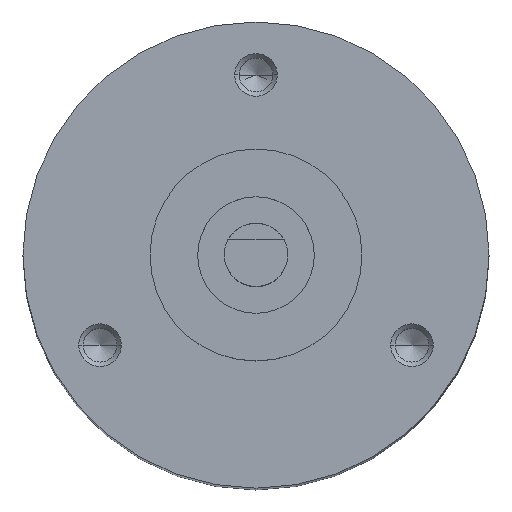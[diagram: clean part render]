
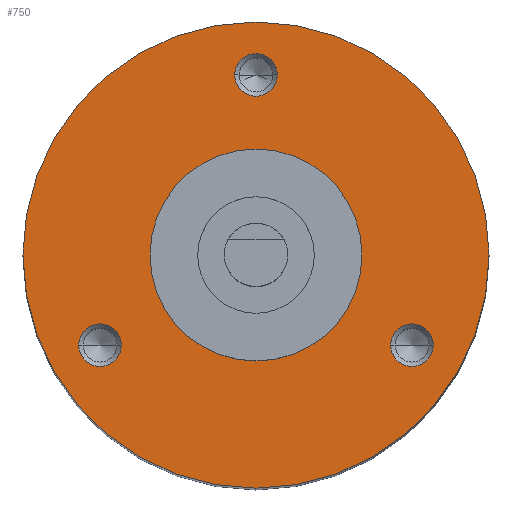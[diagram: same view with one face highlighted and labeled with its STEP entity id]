
A CAD part, top view. The second image highlights one B-rep face of the part: STEP entity #750.
In plain terms, the highlighted planar face has unit normal (0, 0, 1).
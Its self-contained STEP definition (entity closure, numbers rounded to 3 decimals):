
#184 = VERTEX_POINT ( 'NONE', #1499 ) ;
#186 = EDGE_CURVE ( 'NONE', #184, #187, #1498, .T. ) ;
#187 = VERTEX_POINT ( 'NONE', #1444 ) ;
#243 = VERTEX_POINT ( 'NONE', #1584 ) ;
#245 = EDGE_CURVE ( 'NONE', #437, #243, #1597, .T. ) ;
#246 = EDGE_CURVE ( 'NONE', #442, #247, #1588, .T. ) ;
#247 = VERTEX_POINT ( 'NONE', #1632 ) ;
#284 = VERTEX_POINT ( 'NONE', #1793 ) ;
#286 = EDGE_CURVE ( 'NONE', #284, #287, #1740, .T. ) ;
#287 = VERTEX_POINT ( 'NONE', #1730 ) ;
#309 = VERTEX_POINT ( 'NONE', #1846 ) ;
#393 = EDGE_CURVE ( 'NONE', #309, #394, #3620, .T. ) ;
#394 = VERTEX_POINT ( 'NONE', #3615 ) ;
#437 = VERTEX_POINT ( 'NONE', #2236 ) ;
#442 = VERTEX_POINT ( 'NONE', #2189 ) ;
#520 = ORIENTED_EDGE ( 'NONE', *, *, #246, .F. ) ;
#536 = ORIENTED_EDGE ( 'NONE', *, *, #545, .T. ) ;
#540 = EDGE_CURVE ( 'NONE', #247, #442, #2505, .T. ) ;
#545 = EDGE_CURVE ( 'NONE', #243, #437, #2705, .T. ) ;
#546 = ORIENTED_EDGE ( 'NONE', *, *, #540, .F. ) ;
#547 = EDGE_LOOP ( 'NONE', ( #546, #520 ) ) ;
#671 = EDGE_LOOP ( 'NONE', ( #672, #674 ) ) ;
#672 = ORIENTED_EDGE ( 'NONE', *, *, #673, .F. ) ;
#673 = EDGE_CURVE ( 'NONE', #287, #284, #2873, .T. ) ;
#674 = ORIENTED_EDGE ( 'NONE', *, *, #286, .F. ) ;
#675 = EDGE_LOOP ( 'NONE', ( #676, #698 ) ) ;
#676 = ORIENTED_EDGE ( 'NONE', *, *, #697, .F. ) ;
#691 = EDGE_LOOP ( 'NONE', ( #710, #712 ) ) ;
#697 = EDGE_CURVE ( 'NONE', #187, #184, #3097, .T. ) ;
#698 = ORIENTED_EDGE ( 'NONE', *, *, #186, .F. ) ;
#699 = EDGE_LOOP ( 'NONE', ( #700, #536 ) ) ;
#700 = ORIENTED_EDGE ( 'NONE', *, *, #245, .T. ) ;
#710 = ORIENTED_EDGE ( 'NONE', *, *, #711, .F. ) ;
#711 = EDGE_CURVE ( 'NONE', #394, #309, #3148, .T. ) ;
#712 = ORIENTED_EDGE ( 'NONE', *, *, #393, .F. ) ;
#750 = ADVANCED_FACE ( 'NONE', ( #3173, #3201, #3200, #3199, #3198 ), #3043, .T. ) ;
#1444 = CARTESIAN_POINT ( 'NONE',  ( -6.356, -4.25, 0. ) ) ;
#1445 = DIRECTION ( 'NONE',  ( 1., 0., 0. ) ) ;
#1446 = DIRECTION ( 'NONE',  ( 0., 0., 1. ) ) ;
#1496 = CARTESIAN_POINT ( 'NONE',  ( -7.361, -4.25, 0. ) ) ;
#1497 = AXIS2_PLACEMENT_3D ( 'NONE', #1496, #1446, #1445 ) ;
#1498 = CIRCLE ( 'NONE', #1497, 1.005 ) ;
#1499 = CARTESIAN_POINT ( 'NONE',  ( -8.366, -4.25, 0. ) ) ;
#1584 = CARTESIAN_POINT ( 'NONE',  ( -11., 0., 0. ) ) ;
#1587 = AXIS2_PLACEMENT_3D ( 'NONE', #1590, #1634, #1633 ) ;
#1588 = CIRCLE ( 'NONE', #1587, 5. ) ;
#1590 = CARTESIAN_POINT ( 'NONE',  ( 0., 0., 0. ) ) ;
#1591 = DIRECTION ( 'NONE',  ( 1., 0., 0. ) ) ;
#1595 = DIRECTION ( 'NONE',  ( 0., 0., 1. ) ) ;
#1596 = AXIS2_PLACEMENT_3D ( 'NONE', #1687, #1595, #1591 ) ;
#1597 = CIRCLE ( 'NONE', #1596, 11. ) ;
#1632 = CARTESIAN_POINT ( 'NONE',  ( -5., 0., 0. ) ) ;
#1633 = DIRECTION ( 'NONE',  ( 1., 0., 0. ) ) ;
#1634 = DIRECTION ( 'NONE',  ( 0., 0., 1. ) ) ;
#1687 = CARTESIAN_POINT ( 'NONE',  ( 0., 0., 0. ) ) ;
#1730 = CARTESIAN_POINT ( 'NONE',  ( 8.366, -4.25, 0. ) ) ;
#1740 = CIRCLE ( 'NONE', #1803, 1.005 ) ;
#1793 = CARTESIAN_POINT ( 'NONE',  ( 6.356, -4.25, 0. ) ) ;
#1803 = AXIS2_PLACEMENT_3D ( 'NONE', #1806, #1834, #1831 ) ;
#1806 = CARTESIAN_POINT ( 'NONE',  ( 7.361, -4.25, 0. ) ) ;
#1831 = DIRECTION ( 'NONE',  ( 1., 0., 0. ) ) ;
#1834 = DIRECTION ( 'NONE',  ( 0., 0., 1. ) ) ;
#1846 = CARTESIAN_POINT ( 'NONE',  ( -1.005, 8.5, 0. ) ) ;
#2189 = CARTESIAN_POINT ( 'NONE',  ( 5., 0., 0. ) ) ;
#2236 = CARTESIAN_POINT ( 'NONE',  ( 11., 0., 0. ) ) ;
#2501 = DIRECTION ( 'NONE',  ( 1., 0., 0. ) ) ;
#2502 = DIRECTION ( 'NONE',  ( 0., 0., 1. ) ) ;
#2503 = CARTESIAN_POINT ( 'NONE',  ( 0., 0., 0. ) ) ;
#2504 = AXIS2_PLACEMENT_3D ( 'NONE', #2503, #2502, #2501 ) ;
#2505 = CIRCLE ( 'NONE', #2504, 5. ) ;
#2586 = DIRECTION ( 'NONE',  ( 1., 0., 0. ) ) ;
#2651 = DIRECTION ( 'NONE',  ( 0., 0., 1. ) ) ;
#2704 = AXIS2_PLACEMENT_3D ( 'NONE', #2706, #2651, #2586 ) ;
#2705 = CIRCLE ( 'NONE', #2704, 11. ) ;
#2706 = CARTESIAN_POINT ( 'NONE',  ( 0., 0., 0. ) ) ;
#2869 = DIRECTION ( 'NONE',  ( 1., 0., 0. ) ) ;
#2870 = DIRECTION ( 'NONE',  ( 0., 0., 1. ) ) ;
#2871 = CARTESIAN_POINT ( 'NONE',  ( 7.361, -4.25, 0. ) ) ;
#2872 = AXIS2_PLACEMENT_3D ( 'NONE', #2871, #2870, #2869 ) ;
#2873 = CIRCLE ( 'NONE', #2872, 1.005 ) ;
#3037 = DIRECTION ( 'NONE',  ( 1., 0., 0. ) ) ;
#3038 = DIRECTION ( 'NONE',  ( 0., 0., 1. ) ) ;
#3039 = CARTESIAN_POINT ( 'NONE',  ( 0., 0., 0. ) ) ;
#3040 = AXIS2_PLACEMENT_3D ( 'NONE', #3039, #3038, #3037 ) ;
#3043 = PLANE ( 'NONE',  #3040 ) ;
#3061 = CARTESIAN_POINT ( 'NONE',  ( 0., 8.5, 0. ) ) ;
#3093 = DIRECTION ( 'NONE',  ( 1., 0., 0. ) ) ;
#3094 = DIRECTION ( 'NONE',  ( 0., 0., 1. ) ) ;
#3095 = CARTESIAN_POINT ( 'NONE',  ( -7.361, -4.25, 0. ) ) ;
#3096 = AXIS2_PLACEMENT_3D ( 'NONE', #3095, #3094, #3093 ) ;
#3097 = CIRCLE ( 'NONE', #3096, 1.005 ) ;
#3145 = DIRECTION ( 'NONE',  ( 1., 0., 0. ) ) ;
#3146 = DIRECTION ( 'NONE',  ( 0., 0., 1. ) ) ;
#3147 = AXIS2_PLACEMENT_3D ( 'NONE', #3061, #3146, #3145 ) ;
#3148 = CIRCLE ( 'NONE', #3147, 1.005 ) ;
#3173 = FACE_BOUND ( 'NONE', #691, .T. ) ;
#3198 = FACE_BOUND ( 'NONE', #547, .T. ) ;
#3199 = FACE_OUTER_BOUND ( 'NONE', #699, .T. ) ;
#3200 = FACE_BOUND ( 'NONE', #675, .T. ) ;
#3201 = FACE_BOUND ( 'NONE', #671, .T. ) ;
#3615 = CARTESIAN_POINT ( 'NONE',  ( 1.005, 8.5, 0. ) ) ;
#3616 = DIRECTION ( 'NONE',  ( 1., 0., 0. ) ) ;
#3617 = DIRECTION ( 'NONE',  ( 0., 0., 1. ) ) ;
#3618 = CARTESIAN_POINT ( 'NONE',  ( 0., 8.5, 0. ) ) ;
#3619 = AXIS2_PLACEMENT_3D ( 'NONE', #3618, #3617, #3616 ) ;
#3620 = CIRCLE ( 'NONE', #3619, 1.005 ) ;
